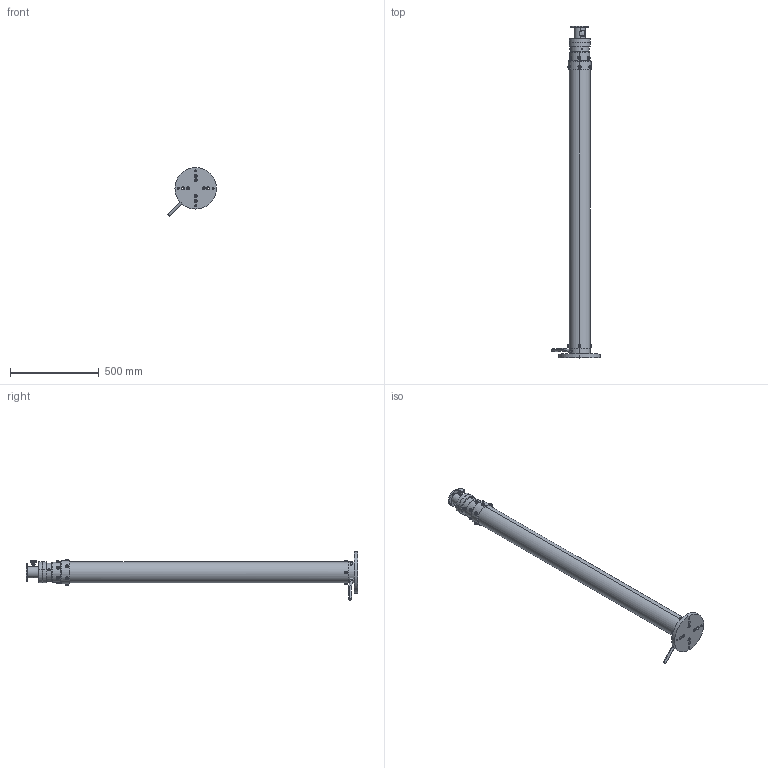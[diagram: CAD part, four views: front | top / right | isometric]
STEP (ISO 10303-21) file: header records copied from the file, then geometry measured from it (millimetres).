
FILE_DESCRIPTION (( 'STEP AP214' ), '1' );
FILE_NAME ('PLM-13-3S.STEP', '2015-11-09T17:56:12', ( '' ), ( '' ), 'SwSTEP 2.0', 'SolidWorks 2016', '' );
FILE_SCHEMA (( 'AUTOMOTIVE_DESIGN' ));
Length unit declared in the file: inch
Products named in the file (16): LM-18-3S STAGE 2_LM-13; LM-18-3S STAGE 1_LM-13; socket head cap screw_ai_HX-SHCS 0.3125-18x0.625x0.625-N; PLM-13-3S; lock washer spring regular_ai_Regular LW 0.3125; socket head cap screw_ai_HX-SHCS 0.4375-14x0.625x0.625-N; socket set screw flat point_ai_SSFLATSKT 0.3125-18x0.25-HX-N; socket set screw flat point_ai_SSFLATSKT 0.25-20x0.1875-HX-N; socket head cap screw_ai_HX-SHCS 0.25-28x0.25x0.25-N; lock washer spring regular_ai_Regular LW 0.25; socket button head cap screw_ai_SBHCSCREW 0.375-16x0.375-HX-N; lock washer spring regular_ai_Regular LW 0.375; flat washer type b narrow_ai_Narrow FW 0.375; PLM Top Mount Cap Knob; PLM Top Mount Cap; LM-18-3S STAGE 3_LM-13
Assembly tree (59 placements, depth 2):
  PLM-13-3S
    LM-18-3S STAGE 1_LM-13
    LM-18-3S STAGE 2_LM-13
    LM-18-3S STAGE 3_LM-13
    PLM Top Mount Cap
    PLM Top Mount Cap Knob
    flat washer type b narrow_ai_Narrow FW 0.375  x12
    lock washer spring regular_ai_Regular LW 0.375  x12
    socket button head cap screw_ai_SBHCSCREW 0.375-16x0.375-HX-N  x12
    lock washer spring regular_ai_Regular LW 0.25  x2
    socket head cap screw_ai_HX-SHCS 0.25-28x0.25x0.25-N  x2
    socket set screw flat point_ai_SSFLATSKT 0.25-20x0.1875-HX-N
    socket set screw flat point_ai_SSFLATSKT 0.3125-18x0.25-HX-N
    socket head cap screw_ai_HX-SHCS 0.4375-14x0.625x0.625-N  x4
    lock washer spring regular_ai_Regular LW 0.3125  x4
    socket head cap screw_ai_HX-SHCS 0.3125-18x0.625x0.625-N  x4
Bounding box: 274.42 x 1869.01 x 274.42 mm (x, y, z)
Volume: 13213399.7 mm3; surface area: 3024238.9 mm2
Topology: 65 solids, 65 shells, 1123 faces, 2604 edges, 1596 vertices
Faces by surface type: plane 518, cylinder 395, cone 124, torus 42, sphere 24, bspline 20
Entity records: 27948 total; most frequent: CARTESIAN_POINT 14998, ORIENTED_EDGE 2524, DIRECTION 2452, EDGE_CURVE 1262, AXIS2_PLACEMENT_3D 966, VERTEX_POINT 794, EDGE_LOOP 606, LINE 520
